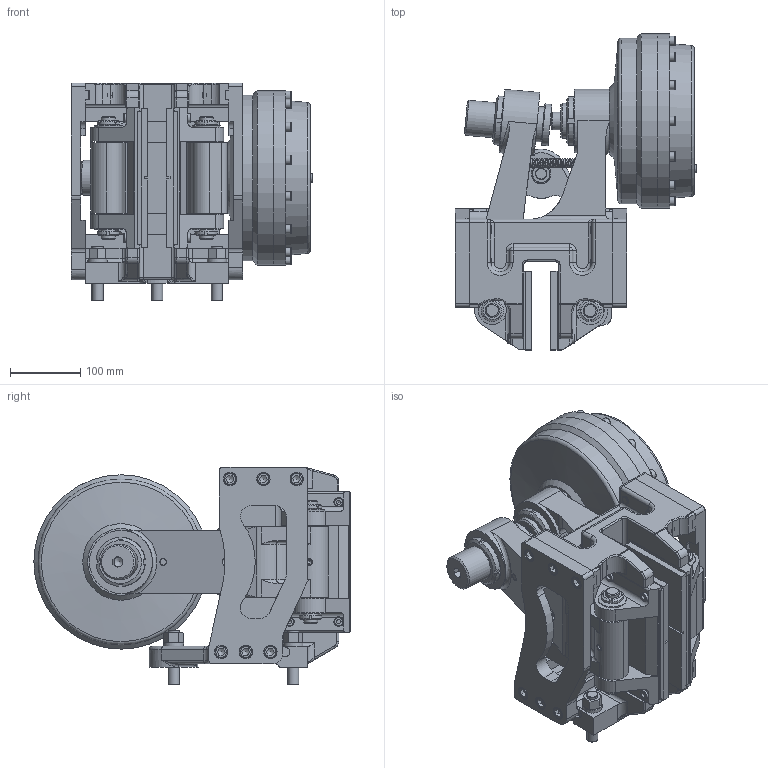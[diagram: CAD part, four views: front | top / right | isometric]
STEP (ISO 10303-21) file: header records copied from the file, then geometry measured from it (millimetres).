
FILE_DESCRIPTION(/* description */ ('','CAx-IF Rec.Pracs.---Representation and Presentation of Product Manufacturing Information (PMI)---4.0---2014-10-13'),/* implementation_level */ '2;1');
FILE_NAME(/* name */ 'X:\INVENTOR\DISEGNI\19_Pinze\STEP x Sito\PNEUM-NEGATIVE\19_36_066_04 PPT-N066_25,4.stp',/* time_stamp */ '2018-10-25T11:06:06+02:00',/* author */ ('stefano'),/* organization */ (''),/* preprocessor_version */ 'ST-DEVELOPER v17',/* originating_system */ 'Autodesk Inventor 2018',/* authorisation */ '');
FILE_SCHEMA (('AP242_MANAGED_MODEL_BASED_3D_ENGINEERING_MIM_LF { 1 0 10303 442 1 1 4 }'));
Length unit declared in the file: millimetre
Products named in the file (1): 19_36_066_04 PPT-N066_25,4_Substitute_2
Bounding box: 343.1 x 450 x 310 mm (x, y, z)
Volume: 10406496 mm3; surface area: 1298268.5 mm2
Topology: 1 solids, 1 shells, 1856 faces, 5108 edges, 3331 vertices
Faces by surface type: plane 907, cylinder 529, torus 185, cone 184, bspline 31, sphere 20
Full cylindrical faces by diameter (mm): 1.8 x2, 4.917 x6, 5 x2, 6.3 x6, 6.917 x1, 7.4 x1, 7.5 x2, 8 x8, 8.376 x1, 8.5 x8, 8.917 x2, 9 x1, 9.188 x1, 10 x4, 10.106 x3, 10.5 x5, 11.445 x2, 12 x15, 12.5 x12, 13 x22, 13.5 x8, 14 x1, 16 x6, 16.5 x5, 17 x3, 18 x13, 18.631 x1, 19 x12, 20 x13, 22 x6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
Entity records: 68763 total; most frequent: CARTESIAN_POINT 19838, DIRECTION 10114, ORIENTED_EDGE 10060, EDGE_CURVE 5030, AXIS2_PLACEMENT_3D 3904, VERTEX_POINT 3331, LINE 2306, VECTOR 2306
